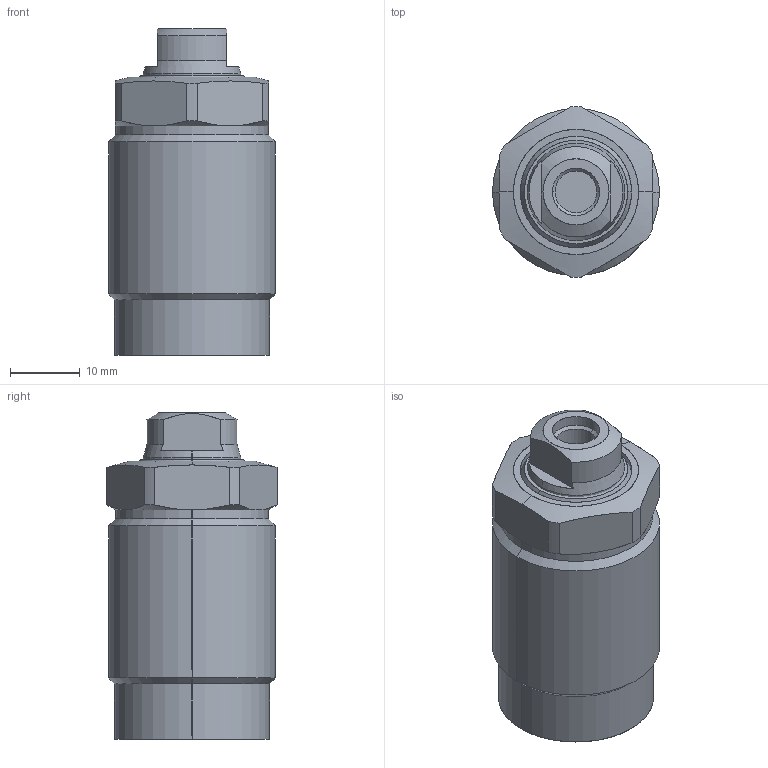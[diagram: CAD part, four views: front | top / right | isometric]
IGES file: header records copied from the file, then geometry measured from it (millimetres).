
Start section: SolidWorks IGES file using analytic representation for surfaces
Global section: file name: D:\abhilash\nijil\cylinder\Clasys1\dp converted\03\pt\02\0102-0302.IGS; native system: SolidWorks 2010; preprocessor: SolidWorks 2010; author: nidheesh; date: 130730.113519; units: millimetre
Bounding box: 24 x 24.49 x 47 mm (x, y, z)
Surface area: 5080.8 mm2 (no closed solid volume)
Topology: 0 solids, 0 shells, 74 faces, 932 edges, 932 vertices
Faces by surface type: revolution 50, bspline 24
